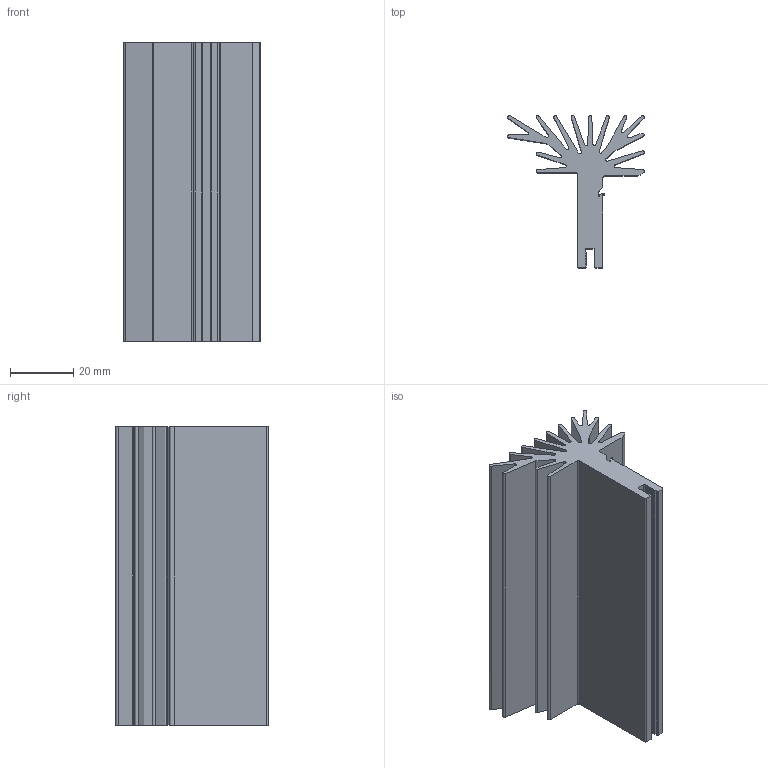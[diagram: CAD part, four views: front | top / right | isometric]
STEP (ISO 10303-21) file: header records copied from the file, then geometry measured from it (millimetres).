
FILE_DESCRIPTION (( 'STEP AP214' ), '1' );
FILE_NAME ('pr292_94_se_m3.STEP', '2004-01-19T14:42:09', ( '' ), ( '' ), 'SwSTEP 2.0', 'SolidWorks 2002349', '' );
FILE_SCHEMA (( 'AUTOMOTIVE_DESIGN' ));
Length unit declared in the file: millimetre
Products named in the file (1): pr292_94_se_m3
Bounding box: 43 x 48 x 94 mm (x, y, z)
Volume: 53687.1 mm3; surface area: 38948.9 mm2
Topology: 1 solids, 1 shells, 137 faces, 405 edges, 270 vertices
Faces by surface type: plane 87, cylinder 50
Entity records: 4602 total; most frequent: CARTESIAN_POINT 813, ORIENTED_EDGE 810, DIRECTION 781, EDGE_CURVE 405, LINE 305, VECTOR 305, VERTEX_POINT 270, AXIS2_PLACEMENT_3D 238
